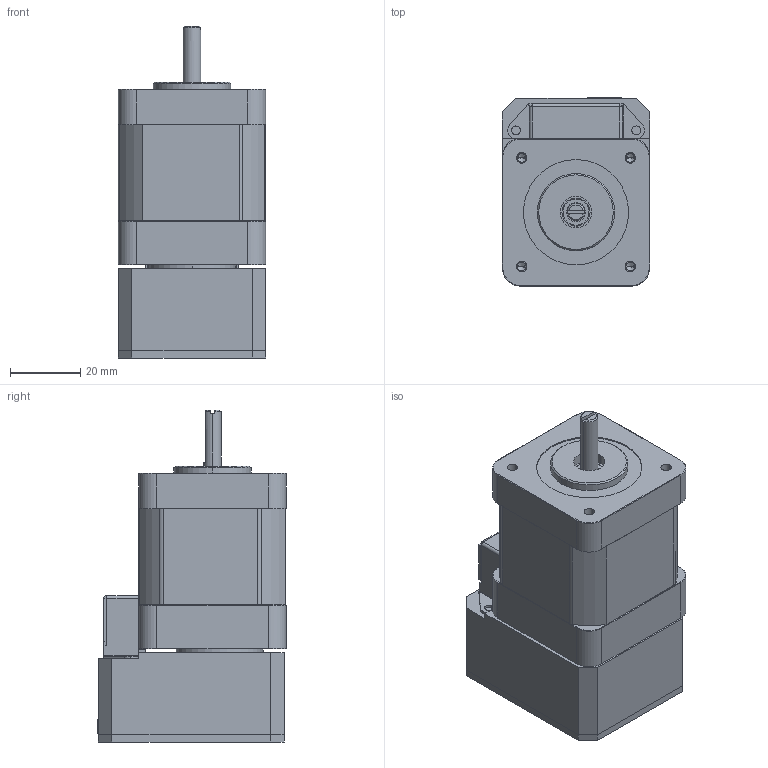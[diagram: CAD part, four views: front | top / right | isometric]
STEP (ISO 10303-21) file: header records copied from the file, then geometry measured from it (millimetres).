
FILE_DESCRIPTION (( 'STEP AP203' ), '1' );
FILE_NAME ('CM1-X-17L30.STEP', '2010-01-05T17:32:46', ( 'render' ), ( '' ), 'SwSTEP 2.0', 'SolidWorks 2009', '' );
FILE_SCHEMA (( 'CONFIG_CONTROL_DESIGN' ));
Length unit declared in the file: millimetre
Products named in the file (11): CM1-X-17L30; cm1 driver casing; CM1 driver cover; 17 wire cover; 17X Stepper_17L; Servo CM-17 Front Face; Servo CM-17 Bottom; 17X Body_17L; Driver Card; cm1 driver board; 53254-1210
Assembly tree (10 placements, depth 3):
  CM1-X-17L30
    CM1 driver cover
    Driver Card
      53254-1210
      cm1 driver board
    17 wire cover
    cm1 driver casing
    17X Stepper_17L
      17X Body_17L
      Servo CM-17 Bottom
      Servo CM-17 Front Face
Bounding box: 42.03 x 53.75 x 94.71 mm (x, y, z)
Volume: 111795.2 mm3; surface area: 42969 mm2
Topology: 8 solids, 8 shells, 787 faces, 2020 edges, 1280 vertices
Faces by surface type: plane 571, cylinder 185, cone 21, torus 8, bspline 2
Entity records: 24776 total; most frequent: CARTESIAN_POINT 4266, ORIENTED_EDGE 4024, DIRECTION 3965, EDGE_CURVE 2012, LINE 1599, VECTOR 1599, VERTEX_POINT 1280, AXIS2_PLACEMENT_3D 1183
